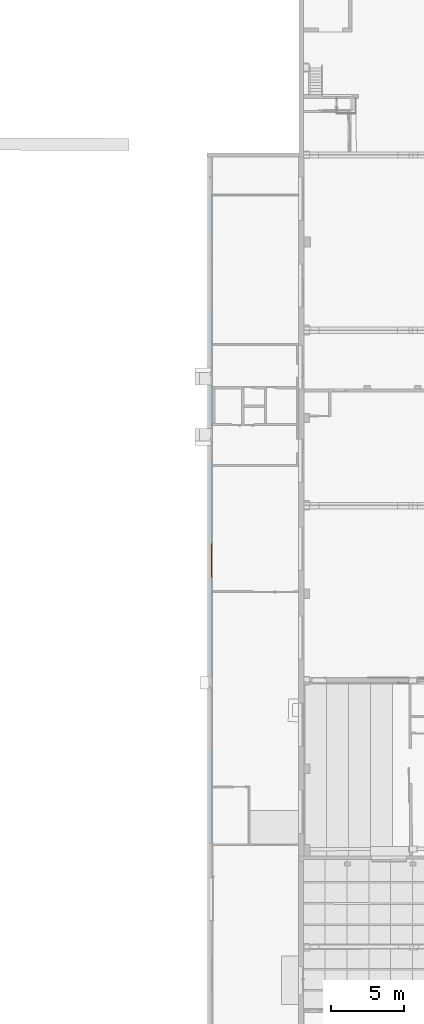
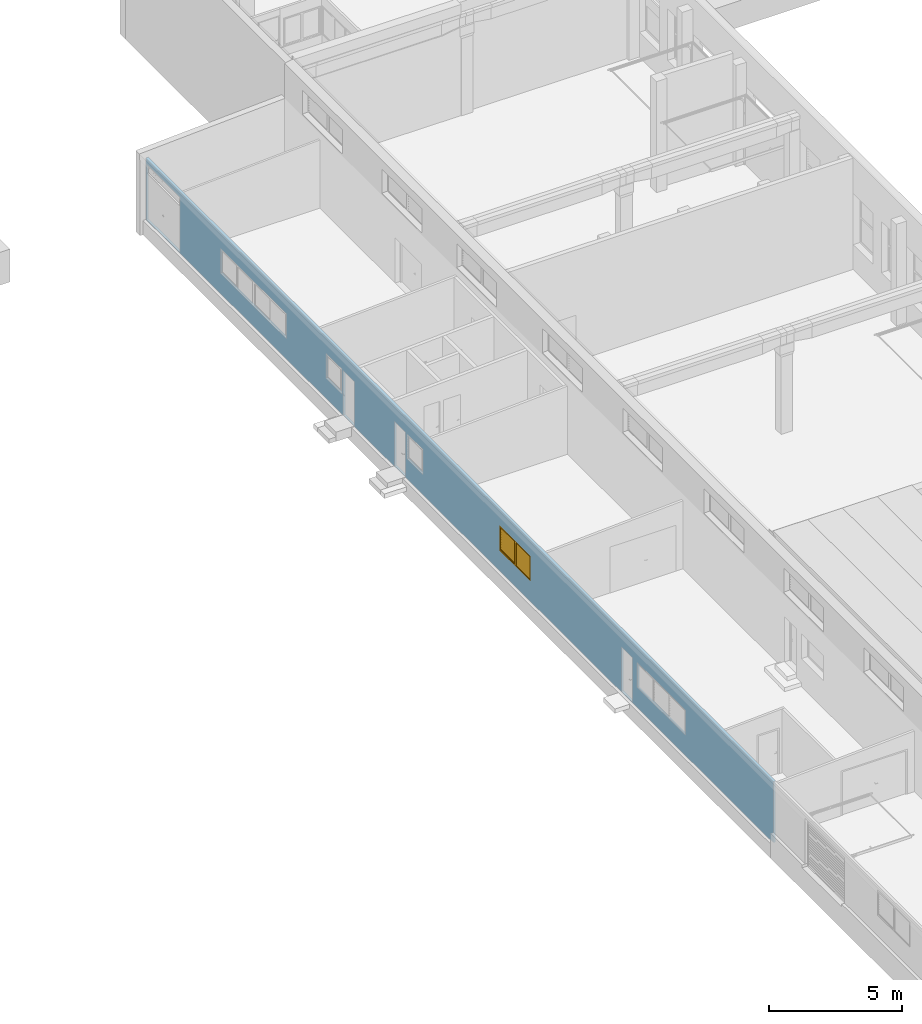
# One storey, part 104 of 301: 1 window, 9 openings, plus 1 element that does not belong to this part.
"""IFC2X3 building model written with IfcOpenShell, lengths in millimetres."""

from ifc_helpers import new_model, entity, si_unit, converted_unit, derived_unit, money_unit, direction, frame, origin_with_axes, place, context, subcontext, project, spatial, open_shell, faceted_brep, surface_model, material, type_object, element, fill, save


model = new_model("IFC2X3")

# Units and contexts
model_context = context("Model", 3, precision=0.01, world=origin_with_axes(), true_north=direction((0.0, 1.0)))
body_context = subcontext(model_context, "Body", "Model", "MODEL_VIEW")
ifc_project = project(units=[si_unit("LENGTHUNIT", "METRE", prefix="MILLI"), si_unit("AREAUNIT", "SQUARE_METRE"), si_unit("VOLUMEUNIT", "CUBIC_METRE"), converted_unit("PLANEANGLEUNIT", "DEGREE", entity("IfcPlaneAngleMeasure", 0.0174532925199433), si_unit("PLANEANGLEUNIT", "RADIAN"), dimensions=[0, 0, 0, 0, 0, 0, 0]), money_unit("EUR"), converted_unit("TIMEUNIT", "Year", entity("IfcTimeMeasure", 31557600.0), si_unit("TIMEUNIT", "SECOND"), dimensions=[0, 0, 1, 0, 0, 0, 0]), si_unit("MASSUNIT", "GRAM", prefix="KILO"), si_unit("THERMODYNAMICTEMPERATUREUNIT", "DEGREE_CELSIUS"), si_unit("LUMINOUSINTENSITYUNIT", "LUMEN"), si_unit("ENERGYUNIT", "JOULE", prefix="MEGA"), derived_unit("THERMALCONDUCTANCEUNIT", [(si_unit("POWERUNIT", "WATT"), 1), (si_unit("LENGTHUNIT", "METRE"), -1), (si_unit("THERMODYNAMICTEMPERATUREUNIT", "KELVIN"), -1)]), derived_unit("SPECIFICHEATCAPACITYUNIT", [(si_unit("ENERGYUNIT", "JOULE"), 1), (si_unit("MASSUNIT", "GRAM", prefix="KILO"), -1), (si_unit("THERMODYNAMICTEMPERATUREUNIT", "KELVIN"), -1)]), derived_unit("MASSDENSITYUNIT", [(si_unit("MASSUNIT", "GRAM", prefix="KILO"), 1), (si_unit("VOLUMEUNIT", "CUBIC_METRE"), -1)])], contexts=[model_context])

# Site, building, storey
site_placement = place(None, frame((0.0, 0.0, 8650.0), z_axis=(0.0, 0.0, 1.0), x_axis=(1.0, 0.0, 0.0)))
site = spatial("IfcSite", under=ifc_project, at=site_placement, Name="43301:001:0844", CompositionType="ELEMENT")
building_placement = place(site_placement, origin_with_axes())
building = spatial("IfcBuilding", under=site, at=building_placement, Name="Kuressaare Ametikooli tuulikute mehaanikute õppekorpus", CompositionType="ELEMENT")
storey_placement = place(building_placement, origin_with_axes())
storey = spatial("IfcBuildingStorey", under=building, at=storey_placement, Name="1.korrus", CompositionType="ELEMENT", Elevation=0.0)

# Wall, openings, window
ifc_material = material(Name="GENEERILINE - KONSTRUKTRIOON")
wall_type = type_object("IfcWallType", Name="GENEERILINE - KONSTRUKTRIOON 100", PredefinedType="NOTDEFINED")
wall_placement = place(storey_placement, frame((81892.20130850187, 110588.890590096, -350.0), z_axis=(0.0, 0.0, 1.0), x_axis=(-7.655742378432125e-06, -0.9999999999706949, 0.0)))
wall = element("IfcWall", 1, at=wall_placement, inside=storey, type_object=wall_type, material=ifc_material, Name="VS-XX", context=body_context, shape_type="Brep", body=[
    faceted_brep([(269.999999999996, 0.0, 2816.26484691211), (269.999999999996, 99.99999999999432, 2821.680593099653), (269.999999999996, 99.99999999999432, 0.0), (269.999999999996, 0.0, 0.0), (47352.6273163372, 99.9999999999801, 2809.655716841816), (47352.6273163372, 0.0, 2804.239970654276), (47352.6273163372, 99.9999999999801, 0.0), (5854.778075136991, 99.9999999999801, 924.9999999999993), (10814.77807513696, 100.0000000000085, 924.9999999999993), (10814.77807513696, 100.0000000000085, 2075.0), (5854.778075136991, 99.9999999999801, 2075.0), (13763.52836301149, 99.99999999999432, 2075.0), (13763.52836301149, 99.99999999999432, 924.9999999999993), (14963.52836301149, 100.0000000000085, 924.9999999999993), (14963.52836301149, 100.0000000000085, 2075.0), (21051.12921387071, 99.99999999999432, 2075.0), (19851.12921387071, 99.99999999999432, 2075.0), (19851.12921387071, 99.99999999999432, 924.9999999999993), (21051.12921387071, 99.99999999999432, 924.9999999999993), (29133.95455333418, 99.99999999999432, 924.9999999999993), (29133.95455333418, 99.99999999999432, 2075.0), (26783.95455333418, 99.99999999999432, 2075.0), (26783.95455333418, 99.99999999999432, 924.9999999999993), (37120.04927739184, 99.9999999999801, 924.9999999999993), (40770.04927739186, 99.9999999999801, 924.9999999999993), (40770.04927739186, 99.9999999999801, 2075.0), (37120.04927739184, 99.9999999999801, 2075.0), (297.2449189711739, 99.99999999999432, 2580.0), (297.2449189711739, 99.99999999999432, 19.99999999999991), (2817.24491897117, 99.99999999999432, 19.99999999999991), (2817.24491897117, 99.99999999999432, 2580.0), (15909.77920143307, 100.0000000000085, 2070.0), (15059.77920143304, 99.99999999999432, 2070.0), (15059.77920143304, 99.99999999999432, 19.99999999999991), (15909.77920143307, 100.0000000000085, 19.99999999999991), (19754.87837544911, 99.9999999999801, 19.99999999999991), (19754.87837544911, 99.9999999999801, 2070.0), (18904.8783754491, 99.99999999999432, 2070.0), (18904.8783754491, 99.99999999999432, 19.99999999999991), (35946.63936298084, 99.9999999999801, 19.99999999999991), (36796.63936298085, 99.9999999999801, 19.99999999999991), (36796.63936298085, 99.9999999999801, 2070.0), (35946.63936298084, 99.9999999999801, 2070.0), (47352.6273163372, 0.0, 0.0), (10814.77807513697, 0.0, 2075.0), (10814.77807513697, 0.0, 924.9999999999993), (5854.778075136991, 0.0, 924.9999999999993), (5854.778075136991, 0.0, 2075.0), (13763.5283630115, 0.0, 2075.0), (14963.5283630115, 0.0, 2075.0), (14963.5283630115, 0.0, 924.9999999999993), (13763.5283630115, 0.0, 924.9999999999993), (19851.12921387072, 0.0, 924.9999999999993), (19851.12921387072, 0.0, 2075.0), (21051.12921387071, 0.0, 2075.0), (21051.12921387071, 0.0, 924.9999999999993), (29133.95455333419, 0.0, 924.9999999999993), (26783.95455333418, 0.0, 924.9999999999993), (26783.95455333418, 0.0, 2075.0), (29133.95455333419, 0.0, 2075.0), (40770.04927739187, 0.0, 2075.0), (40770.04927739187, 0.0, 924.9999999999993), (37120.04927739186, 0.0, 924.9999999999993), (37120.04927739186, 0.0, 2075.0), (297.2449189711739, 0.0, 2580.0), (2817.244918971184, 0.0, 2580.0), (2817.244918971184, 0.0, 19.99999999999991), (297.2449189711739, 0.0, 19.99999999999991), (15059.77920143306, 0.0, 19.99999999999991), (15059.77920143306, 0.0, 2070.0), (15909.77920143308, 0.0, 2070.0), (15909.77920143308, 0.0, 19.99999999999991), (19754.87837544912, 0.0, 19.99999999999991), (18904.8783754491, 0.0, 19.99999999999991), (18904.8783754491, 0.0, 2070.0), (19754.87837544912, 0.0, 2070.0), (36796.63936298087, 0.0, 2070.0), (36796.63936298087, 0.0, 19.99999999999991), (35946.63936298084, 0.0, 19.99999999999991), (35946.63936298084, 0.0, 2070.0)], [[[0, 1, 2, 3]], [[4, 1, 0, 5]], [[1, 4, 6, 2], [7, 8, 9, 10], [11, 12, 13, 14], [15, 16, 17, 18], [19, 20, 21, 22], [23, 24, 25, 26], [27, 28, 29, 30], [31, 32, 33, 34], [35, 36, 37, 38], [39, 40, 41, 42]], [[2, 6, 43, 3]], [[5, 0, 3, 43], [44, 45, 46, 47], [48, 49, 50, 51], [52, 53, 54, 55], [56, 57, 58, 59], [60, 61, 62, 63], [64, 65, 66, 67], [68, 69, 70, 71], [72, 73, 74, 75], [76, 77, 78, 79]], [[4, 5, 43, 6]], [[45, 8, 7, 46]], [[44, 9, 8, 45]], [[47, 10, 9, 44]], [[46, 7, 10, 47]], [[48, 51, 12, 11]], [[51, 50, 13, 12]], [[50, 49, 14, 13]], [[49, 48, 11, 14]], [[15, 54, 53, 16]], [[16, 53, 52, 17]], [[17, 52, 55, 18]], [[18, 55, 54, 15]], [[20, 19, 56, 59]], [[21, 20, 59, 58]], [[22, 21, 58, 57]], [[19, 22, 57, 56]], [[61, 24, 23, 62]], [[60, 25, 24, 61]], [[63, 26, 25, 60]], [[62, 23, 26, 63]], [[64, 67, 28, 27]], [[67, 66, 29, 28]], [[66, 65, 30, 29]], [[65, 64, 27, 30]], [[31, 70, 69, 32]], [[32, 69, 68, 33]], [[33, 68, 71, 34]], [[34, 71, 70, 31]], [[36, 35, 72, 75]], [[37, 36, 75, 74]], [[38, 37, 74, 73]], [[35, 38, 73, 72]], [[77, 40, 39, 78]], [[76, 41, 40, 77]], [[79, 42, 41, 76]], [[78, 39, 42, 79]]]),
])
opening_1_placement = place(wall_placement, frame((8334.778075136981, 0.0, 924.9999999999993), z_axis=(0.0, 0.0, 1.0), x_axis=(1.0, 0.0, 0.0)))
element("IfcOpeningElement", 2, at=opening_1_placement, cuts=wall, Name="VA-XX", context=body_context, shape_type="Brep", body=[
    faceted_brep([(2479.999999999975, 101.3625195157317, 1150.0), (2479.999999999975, 101.3625195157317, 0.0), (-2480.000000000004, 101.3625195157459, 0.0), (-2480.000000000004, 101.3625195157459, 1150.0), (2479.999999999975, -1.362519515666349, 1150.0), (2479.999999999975, -1.362519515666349, 0.0), (-2479.99999999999, -1.36251951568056, 0.0), (-2479.99999999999, -1.36251951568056, 1150.0)], [[[0, 1, 2, 3]], [[4, 5, 1, 0]], [[5, 6, 2, 1]], [[6, 7, 3, 2]], [[7, 4, 0, 3]], [[6, 5, 4, 7]]]),
])
opening_2_placement = place(wall_placement, frame((14363.52836301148, 0.0, 924.9999999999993), z_axis=(0.0, 0.0, 1.0), x_axis=(1.0, 0.0, 0.0)))
element("IfcOpeningElement", 3, at=opening_2_placement, cuts=wall, Name="VA-XX", context=body_context, shape_type="Brep", body=[
    faceted_brep([(600.0000000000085, 101.362519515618, 1150.0), (600.0000000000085, 101.362519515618, 0.0), (-599.9999999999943, 101.362519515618, 0.0), (-599.9999999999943, 101.362519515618, 1150.0), (600.0000000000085, -1.362519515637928, 1150.0), (600.0000000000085, -1.362519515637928, 0.0), (-599.9999999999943, -1.362519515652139, 0.0), (-599.9999999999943, -1.362519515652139, 1150.0)], [[[0, 1, 2, 3]], [[4, 5, 1, 0]], [[5, 6, 2, 1]], [[6, 7, 3, 2]], [[7, 4, 0, 3]], [[6, 5, 4, 7]]]),
])
opening_3_placement = place(wall_placement, frame((20451.1292138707, 0.0, 924.9999999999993), z_axis=(0.0, 0.0, 1.0), x_axis=(1.0, 0.0, 0.0)))
element("IfcOpeningElement", 4, at=opening_3_placement, cuts=wall, Name="VA-XX", context=body_context, shape_type="Brep", body=[
    faceted_brep([(599.9999999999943, 101.3625195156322, 1150.0), (599.9999999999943, 101.3625195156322, 0.0), (-599.9999999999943, 101.3625195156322, 0.0), (-599.9999999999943, 101.3625195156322, 1150.0), (600.0000000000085, -1.362519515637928, 1150.0), (600.0000000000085, -1.362519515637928, 0.0), (-599.9999999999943, -1.362519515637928, 0.0), (-599.9999999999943, -1.362519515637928, 1150.0)], [[[0, 1, 2, 3]], [[4, 5, 1, 0]], [[5, 6, 2, 1]], [[6, 7, 3, 2]], [[7, 4, 0, 3]], [[6, 5, 4, 7]]]),
])
opening_4_placement = place(wall_placement, frame((27958.95455333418, 0.0, 924.9999999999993), z_axis=(0.0, 0.0, 1.0), x_axis=(1.0, 0.0, 0.0)))
opening_4 = element("IfcOpeningElement", 5, at=opening_4_placement, cuts=wall, Name="VA-XX", context=body_context, shape_type="Brep", body=[
    faceted_brep([(1174.999999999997, 101.3625195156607, 1150.0), (1174.999999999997, 101.3625195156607, 0.0), (-1175.000000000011, 101.3625195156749, 0.0), (-1175.000000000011, 101.3625195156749, 1150.0), (1174.999999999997, -1.362519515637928, 1150.0), (1174.999999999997, -1.362519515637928, 0.0), (-1174.999999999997, -1.362519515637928, 0.0), (-1174.999999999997, -1.362519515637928, 1150.0)], [[[0, 1, 2, 3]], [[4, 5, 1, 0]], [[5, 6, 2, 1]], [[6, 7, 3, 2]], [[7, 4, 0, 3]], [[6, 5, 4, 7]]]),
])
opening_5_placement = place(wall_placement, frame((38945.04927739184, 0.0, 924.9999999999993), z_axis=(0.0, 0.0, 1.0), x_axis=(1.0, 0.0, 0.0)))
element("IfcOpeningElement", 6, at=opening_5_placement, cuts=wall, Name="VA-XX", context=body_context, shape_type="Brep", body=[
    faceted_brep([(1825.000000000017, 101.3625195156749, 1150.0), (1825.000000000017, 101.3625195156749, 0.0), (-1825.000000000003, 101.3625195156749, 0.0), (-1825.000000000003, 101.3625195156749, 1150.0), (1825.000000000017, -1.362519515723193, 1150.0), (1825.000000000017, -1.362519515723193, 0.0), (-1825.000000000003, -1.362519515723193, 0.0), (-1825.000000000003, -1.362519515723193, 1150.0)], [[[0, 1, 2, 3]], [[4, 5, 1, 0]], [[5, 6, 2, 1]], [[6, 7, 3, 2]], [[7, 4, 0, 3]], [[6, 5, 4, 7]]]),
])
opening_6_placement = place(wall_placement, frame((1557.244918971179, 0.0, 19.99999999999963), z_axis=(0.0, 0.0, 1.0), x_axis=(1.0, 0.0, 0.0)))
element("IfcOpeningElement", 7, at=opening_6_placement, cuts=wall, context=body_context, shape_type="Brep", body=[
    faceted_brep([(1259.999999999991, 101.3625195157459, 2560.0), (1259.999999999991, 101.3625195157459, 0.0), (-1260.000000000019, 101.3625195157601, 0.0), (-1260.000000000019, 101.3625195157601, 2560.0), (1259.999999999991, -1.36251951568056, 2560.0), (1259.999999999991, -1.36251951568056, 0.0), (-1260.000000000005, -1.36251951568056, 0.0), (-1260.000000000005, -1.36251951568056, 2560.0)], [[[0, 1, 2, 3]], [[4, 5, 1, 0]], [[5, 6, 2, 1]], [[6, 7, 3, 2]], [[7, 4, 0, 3]], [[6, 5, 4, 7]]]),
])
opening_7_placement = place(wall_placement, frame((15484.77920143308, 0.0, 19.99999999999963), z_axis=(0.0, 0.0, 1.0), x_axis=(1.0, 0.0, 0.0)))
element("IfcOpeningElement", 8, at=opening_7_placement, cuts=wall, context=body_context, shape_type="Brep", body=[
    faceted_brep([(424.9999999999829, 101.3625195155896, 2050.0), (424.9999999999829, 101.3625195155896, 0.0), (-425.0000000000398, 101.3625195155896, 0.0), (-425.0000000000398, 101.3625195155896, 2050.0), (424.9999999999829, -1.362519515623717, 2050.0), (424.9999999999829, -1.362519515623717, 0.0), (-425.0000000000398, -1.362519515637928, 0.0), (-425.0000000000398, -1.362519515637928, 2050.0)], [[[0, 1, 2, 3]], [[4, 5, 1, 0]], [[5, 6, 2, 1]], [[6, 7, 3, 2]], [[7, 4, 0, 3]], [[6, 5, 4, 7]]]),
])
opening_8_placement = place(wall_placement, frame((19329.8783754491, 0.0, 19.99999999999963), z_axis=(0.0, 0.0, 1.0), x_axis=(1.0, 0.0, 0.0)))
element("IfcOpeningElement", 9, at=opening_8_placement, cuts=wall, context=body_context, shape_type="Brep", body=[
    faceted_brep([(425.0000000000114, 101.3625195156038, 2050.0), (425.0000000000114, 101.3625195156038, 0.0), (-425.0000000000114, 101.3625195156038, 0.0), (-425.0000000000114, 101.3625195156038, 2050.0), (425.0000000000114, -1.362519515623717, 2050.0), (425.0000000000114, -1.362519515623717, 0.0), (-424.9999999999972, -1.362519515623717, 0.0), (-424.9999999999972, -1.362519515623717, 2050.0)], [[[0, 1, 2, 3]], [[4, 5, 1, 0]], [[5, 6, 2, 1]], [[6, 7, 3, 2]], [[7, 4, 0, 3]], [[6, 5, 4, 7]]]),
])
opening_9_placement = place(wall_placement, frame((36371.63936298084, 0.0, 19.99999999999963), z_axis=(0.0, 0.0, 1.0), x_axis=(1.0, 0.0, 0.0)))
element("IfcOpeningElement", 10, at=opening_9_placement, cuts=wall, context=body_context, shape_type="Brep", body=[
    faceted_brep([(425.0000000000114, 101.362519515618, 2050.0), (425.0000000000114, 101.362519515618, 0.0), (-425.0000000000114, 101.362519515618, 0.0), (-425.0000000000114, 101.362519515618, 2050.0), (425.0000000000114, -1.362519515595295, 2050.0), (425.0000000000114, -1.362519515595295, 0.0), (-424.9999999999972, -1.362519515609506, 0.0), (-424.9999999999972, -1.362519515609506, 2050.0)], [[[0, 1, 2, 3]], [[4, 5, 1, 0]], [[5, 6, 2, 1]], [[6, 7, 3, 2]], [[7, 4, 0, 3]], [[6, 5, 4, 7]]]),
])
window_style = type_object("IfcWindowStyle", Name="Double Window 27", ConstructionType="NOTDEFINED", OperationType="DOUBLE_PANEL_VERTICAL", ParameterTakesPrecedence=False, Sizeable=False)
window_placement = place(opening_4_placement, frame((-1175.000000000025, 0.0, 0.0), z_axis=(0.0, 0.0, 1.0), x_axis=(1.0, 0.0, 0.0)))
window = element("IfcWindow", 11, at=window_placement, inside=storey, type_object=window_style, Name="VA-XX", OverallHeight=1150.0, OverallWidth=2350.0, context=body_context, shape_type="SurfaceModel", body=[
    faceted_brep([(25.00000000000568, 49.99999999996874, 1100.0), (0.0, 49.99999999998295, 1100.0), (0.0, 0.0, 1100.0), (50.00000000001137, 0.0, 1100.0), (50.00000000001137, 24.99999999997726, 1100.0), (25.00000000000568, 24.99999999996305, 1100.0), (25.00000000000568, 49.99999999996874, 50.00000000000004), (0.0, 49.99999999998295, 50.00000000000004), (0.0, 0.0, 50.00000000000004), (50.00000000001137, 0.0, 50.00000000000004), (50.00000000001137, 24.99999999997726, 50.00000000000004), (25.00000000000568, 24.99999999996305, 50.00000000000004)], [[[0, 1, 2, 3, 4, 5]], [[6, 7, 1, 0]], [[1, 7, 8, 2]], [[2, 8, 9, 3]], [[4, 3, 9, 10]], [[10, 11, 5, 4]], [[5, 11, 6, 0]], [[11, 10, 9, 8, 7, 6]]]),
    faceted_brep([(1150.000000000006, 24.99999999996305, 1100.0), (1149.999999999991, 0.0, 1100.0), (1250.0, 0.0, 1100.0), (1250.0, 49.99999999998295, 1100.0), (1175.000000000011, 49.99999999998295, 1100.0), (1175.000000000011, 24.99999999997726, 1100.0), (1150.000000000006, 24.99999999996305, 50.00000000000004), (1149.999999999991, 0.0, 50.00000000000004), (1250.0, 0.0, 50.00000000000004), (1250.0, 49.99999999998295, 50.00000000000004), (1175.000000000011, 49.99999999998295, 50.00000000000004), (1175.000000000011, 24.99999999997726, 50.00000000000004)], [[[0, 1, 2, 3, 4, 5]], [[6, 7, 1, 0]], [[8, 2, 1, 7]], [[9, 3, 2, 8]], [[4, 3, 9, 10]], [[10, 11, 5, 4]], [[5, 11, 6, 0]], [[11, 10, 9, 8, 7, 6]]]),
    faceted_brep([(1150.000000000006, 24.99999999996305, 50.00000000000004), (1149.999999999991, 0.0, 50.00000000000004), (1250.0, 0.0, 50.00000000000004), (1250.0, 49.99999999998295, 50.00000000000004), (1175.000000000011, 49.99999999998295, 50.00000000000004), (1175.000000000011, 24.99999999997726, 50.00000000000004), (50.00000000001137, 24.99999999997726, 50.00000000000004), (50.00000000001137, 0.0, 50.00000000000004), (0.0, 0.0, 50.00000000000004), (0.0, 0.0, 0.0), (2350.000000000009, 0.0, 0.0), (2350.000000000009, 0.0, 50.00000000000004), (2299.999999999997, 0.0, 50.00000000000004), (2300.000000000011, 49.99999999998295, 50.00000000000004), (25.00000000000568, 49.99999999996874, 25.00000000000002), (1175.000000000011, 49.99999999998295, 25.00000000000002), (2350.000000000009, 49.99999999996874, 50.00000000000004), (2350.000000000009, 49.99999999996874, 0.0), (0.0, 49.99999999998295, 0.0), (0.0, 49.99999999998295, 50.00000000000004), (25.00000000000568, 49.99999999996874, 50.00000000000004), (1175.000000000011, 24.99999999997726, 25.00000000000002), (25.00000000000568, 24.99999999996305, 25.00000000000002), (25.00000000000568, 24.99999999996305, 50.00000000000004)], [[[0, 1, 2, 3, 4, 5]], [[6, 7, 1, 0]], [[8, 9, 10, 11, 12, 2, 1, 7]], [[13, 3, 2, 12]], [[14, 15, 4, 3, 13, 16, 17, 18, 19, 20]], [[15, 21, 5, 4]], [[5, 21, 22, 23, 6, 0]], [[23, 20, 19, 8, 7, 6]], [[19, 18, 9, 8]], [[18, 17, 10, 9]], [[17, 16, 11, 10]], [[16, 13, 12, 11]], [[14, 22, 21, 15]], [[23, 22, 14, 20]]]),
    faceted_brep([(25.00000000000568, 49.99999999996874, 1100.0), (0.0, 49.99999999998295, 1100.0), (0.0, 49.99999999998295, 1150.0), (2350.000000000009, 49.99999999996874, 1150.0), (2350.000000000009, 49.99999999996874, 1100.0), (2300.000000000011, 49.99999999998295, 1100.0), (1250.0, 49.99999999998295, 1100.0), (1175.000000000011, 49.99999999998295, 1100.0), (1175.000000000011, 49.99999999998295, 1125.0), (25.00000000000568, 49.99999999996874, 1125.0), (25.00000000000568, 24.99999999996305, 1100.0), (50.00000000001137, 24.99999999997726, 1100.0), (50.00000000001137, 0.0, 1100.0), (0.0, 0.0, 1100.0), (0.0, 0.0, 1150.0), (2350.000000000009, 0.0, 1150.0), (2350.000000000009, 0.0, 1100.0), (2299.999999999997, 0.0, 1100.0), (1250.0, 0.0, 1100.0), (1175.000000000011, 24.99999999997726, 1100.0), (1149.999999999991, 0.0, 1100.0), (1150.000000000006, 24.99999999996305, 1100.0), (1175.000000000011, 24.99999999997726, 1125.0), (25.00000000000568, 24.99999999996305, 1125.0)], [[[0, 1, 2, 3, 4, 5, 6, 7, 8, 9]], [[10, 11, 12, 13, 1, 0]], [[2, 1, 13, 14]], [[3, 2, 14, 15]], [[4, 3, 15, 16]], [[5, 4, 16, 17]], [[6, 5, 17, 18]], [[19, 7, 6, 18, 20, 21]], [[7, 19, 22, 8]], [[8, 22, 23, 9]], [[9, 23, 10, 0]], [[21, 11, 10, 23, 22, 19]], [[21, 20, 12, 11]], [[18, 17, 16, 15, 14, 13, 12, 20]]]),
    faceted_brep([(2299.999999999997, 0.0, 50.00000000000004), (2300.000000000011, 49.99999999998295, 50.00000000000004), (2350.000000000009, 49.99999999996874, 50.00000000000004), (2350.000000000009, 0.0, 50.00000000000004), (2299.999999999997, 0.0, 1100.0), (2300.000000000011, 49.99999999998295, 1100.0), (2350.000000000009, 49.99999999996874, 1100.0), (2350.000000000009, 0.0, 1100.0)], [[[0, 1, 2, 3]], [[4, 5, 1, 0]], [[1, 5, 6, 2]], [[3, 2, 6, 7]], [[0, 3, 7, 4]], [[7, 6, 5, 4]]]),
    faceted_brep([(34.00000000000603, 74.99999999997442, 602.0), (35.33974596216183, 74.99999999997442, 606.9999999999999), (35.33974596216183, 86.99999999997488, 606.9999999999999), (34.00000000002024, 86.99999999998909, 602.0), (34.00000000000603, 74.99999999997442, 547.9999999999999), (35.33974596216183, 74.99999999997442, 542.9999999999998), (39.00000000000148, 74.99999999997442, 539.3397459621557), (44.00000000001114, 74.99999999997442, 537.9999999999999), (55.99999999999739, 74.99999999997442, 537.9999999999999), (61.00000000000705, 74.99999999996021, 539.3397459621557), (64.6602540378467, 74.99999999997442, 542.9999999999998), (66.0000000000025, 74.99999999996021, 547.9999999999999), (66.0000000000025, 74.99999999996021, 602.0), (64.6602540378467, 74.99999999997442, 606.9999999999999), (61.00000000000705, 74.99999999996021, 610.6602540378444), (55.99999999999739, 74.99999999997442, 612.0), (44.00000000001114, 74.99999999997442, 612.0), (39.00000000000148, 74.99999999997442, 610.6602540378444), (39.00000000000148, 86.99999999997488, 610.6602540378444), (44.00000000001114, 86.99999999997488, 612.0), (55.99999999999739, 86.99999999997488, 612.0), (61.00000000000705, 86.99999999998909, 610.6602540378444), (64.6602540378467, 86.99999999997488, 606.9999999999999), (66.00000000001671, 86.99999999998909, 602.0), (66.00000000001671, 86.99999999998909, 547.9999999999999), (64.6602540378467, 86.99999999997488, 542.9999999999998), (61.00000000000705, 86.99999999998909, 539.3397459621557), (55.99999999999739, 86.99999999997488, 537.9999999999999), (44.00000000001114, 86.99999999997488, 537.9999999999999), (39.00000000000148, 86.99999999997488, 539.3397459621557), (35.33974596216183, 86.99999999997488, 542.9999999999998), (34.00000000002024, 86.99999999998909, 547.9999999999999)], [[[0, 1, 2, 3]], [[0, 4, 5, 6, 7, 8, 9, 10, 11, 12, 13, 14, 15, 16, 17, 1]], [[1, 17, 18, 2]], [[3, 2, 18, 19, 20, 21, 22, 23, 24, 25, 26, 27, 28, 29, 30, 31]], [[4, 0, 3, 31]], [[5, 4, 31, 30]], [[6, 5, 30, 29]], [[7, 6, 29, 28]], [[8, 7, 28, 27]], [[9, 8, 27, 26]], [[10, 9, 26, 25]], [[11, 10, 25, 24]], [[12, 11, 24, 23]], [[13, 12, 23, 22]], [[14, 13, 22, 21]], [[15, 14, 21, 20]], [[16, 15, 20, 19]], [[17, 16, 19, 18]]]),
    faceted_brep([(50.00000000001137, 86.99999999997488, 588.4999999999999), (56.75000000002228, 86.99999999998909, 586.69134295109), (56.75000000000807, 110.9999999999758, 586.69134295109), (50.00000000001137, 110.9999999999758, 588.4999999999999), (43.25000000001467, 86.99999999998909, 586.69134295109), (38.30865704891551, 86.99999999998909, 581.7500000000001), (36.50000000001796, 86.99999999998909, 574.9999999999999), (38.30865704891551, 86.99999999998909, 568.25), (43.25000000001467, 86.99999999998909, 563.3086570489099), (50.00000000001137, 86.99999999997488, 561.5), (56.75000000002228, 86.99999999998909, 563.3086570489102), (61.69134295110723, 86.99999999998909, 568.25), (63.50000000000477, 86.99999999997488, 574.9999999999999), (61.69134295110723, 86.99999999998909, 581.7500000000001), (61.69134295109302, 110.9999999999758, 581.7500000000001), (63.50000000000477, 110.9999999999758, 574.9999999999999), (61.69134295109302, 110.9999999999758, 568.25), (56.75000000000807, 110.9999999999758, 563.3086570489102), (50.00000000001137, 110.9999999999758, 561.5), (43.25000000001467, 110.9999999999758, 563.3086570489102), (38.30865704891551, 110.9999999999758, 568.25), (36.50000000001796, 110.9999999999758, 574.9999999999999), (38.30865704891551, 110.9999999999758, 581.7500000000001), (43.25000000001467, 110.9999999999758, 586.69134295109)], [[[0, 1, 2, 3]], [[0, 4, 5, 6, 7, 8, 9, 10, 11, 12, 13, 1]], [[1, 13, 14, 2]], [[3, 2, 14, 15, 16, 17, 18, 19, 20, 21, 22, 23]], [[4, 0, 3, 23]], [[5, 4, 23, 22]], [[6, 5, 22, 21]], [[7, 6, 21, 20]], [[8, 7, 20, 19]], [[9, 8, 19, 18]], [[10, 9, 18, 17]], [[11, 10, 17, 16]], [[12, 11, 16, 15]], [[13, 12, 15, 14]]]),
    faceted_brep([(38.49999999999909, 110.9999999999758, 468.0000000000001), (50.00000000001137, 110.9999999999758, 464.9999999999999), (61.50000000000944, 110.9999999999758, 468.0000000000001), (63.50000000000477, 110.9999999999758, 471.0), (63.50000000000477, 110.9999999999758, 574.9999999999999), (61.69134295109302, 110.9999999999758, 581.7500000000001), (56.75000000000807, 110.9999999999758, 586.69134295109), (50.00000000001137, 110.9999999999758, 588.4999999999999), (43.25000000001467, 110.9999999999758, 586.69134295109), (38.30865704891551, 110.9999999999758, 581.7500000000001), (36.50000000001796, 110.9999999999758, 574.9999999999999), (36.50000000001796, 110.9999999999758, 471.0), (38.49999993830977, 118.9999999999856, 468.0000001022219), (49.99999996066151, 118.9999999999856, 464.9999996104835), (61.49999998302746, 118.9999999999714, 468.0000001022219), (63.50000031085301, 118.9999999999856, 470.9999996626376), (63.50000031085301, 118.9999999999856, 574.9999999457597), (61.69134299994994, 118.9999999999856, 581.749999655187), (56.74999967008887, 118.9999999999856, 586.6913429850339), (49.99999996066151, 118.9999999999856, 588.500000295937), (43.25000025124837, 118.9999999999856, 586.6913429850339), (38.30865692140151, 118.9999999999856, 581.749999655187), (36.49999961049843, 118.9999999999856, 574.9999999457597), (36.49999961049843, 118.9999999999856, 470.9999996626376), (40.3625374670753, 121.9999995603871, 470.6145196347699), (49.99999996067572, 121.9999995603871, 468.1003985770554), (59.63746245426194, 121.9999995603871, 470.6145196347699), (60.50000075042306, 121.9999995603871, 471.9083266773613), (60.50000075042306, 121.9999995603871, 574.6050424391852), (59.00161703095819, 121.9999995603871, 580.1970855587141), (55.19708557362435, 121.9999995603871, 584.001617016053), (49.99999996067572, 121.9999995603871, 585.3941721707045), (44.80291434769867, 121.9999995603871, 584.001617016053), (40.99838289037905, 121.9999995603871, 580.1970855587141), (39.49999917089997, 121.9999995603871, 574.6050424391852), (39.49999917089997, 121.9999995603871, 471.9083266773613)], [[[0, 1, 2, 3, 4, 5, 6, 7, 8, 9, 10, 11]], [[1, 0, 12, 13]], [[2, 1, 13, 14]], [[3, 2, 14, 15]], [[4, 3, 15, 16]], [[5, 4, 16, 17]], [[6, 5, 17, 18]], [[7, 6, 18, 19]], [[8, 7, 19, 20]], [[9, 8, 20, 21]], [[10, 9, 21, 22]], [[11, 10, 22, 23]], [[0, 11, 23, 12]], [[13, 12, 24, 25]], [[14, 13, 25, 26]], [[15, 14, 26, 27]], [[16, 15, 27, 28]], [[17, 16, 28, 29]], [[18, 17, 29, 30]], [[19, 18, 30, 31]], [[20, 19, 31, 32]], [[21, 20, 32, 33]], [[22, 21, 33, 34]], [[23, 22, 34, 35]], [[12, 23, 35, 24]], [[26, 25, 24, 35, 34, 33, 32, 31, 30, 29, 28, 27]]]),
    faceted_brep([(75.00000000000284, 24.99999999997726, 1075.0), (75.00000000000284, 74.99999999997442, 1075.0), (25.00000000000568, 74.99999999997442, 1075.0), (25.00000000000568, 24.99999999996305, 1075.0), (75.00000000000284, 24.99999999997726, 75.00000000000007), (75.00000000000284, 74.99999999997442, 75.00000000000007), (25.00000000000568, 74.99999999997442, 75.00000000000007), (25.00000000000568, 24.99999999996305, 75.00000000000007)], [[[0, 1, 2, 3]], [[4, 5, 1, 0]], [[1, 5, 6, 2]], [[3, 2, 6, 7]], [[0, 3, 7, 4]], [[7, 6, 5, 4]]]),
    faceted_brep([(1125.0, 24.99999999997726, 75.00000000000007), (1125.0, 74.99999999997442, 75.00000000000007), (1174.999999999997, 74.99999999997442, 75.00000000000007), (1175.000000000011, 24.99999999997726, 75.00000000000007), (1125.0, 24.99999999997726, 1075.0), (1125.0, 74.99999999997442, 1075.0), (1174.999999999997, 74.99999999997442, 1075.0), (1175.000000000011, 24.99999999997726, 1075.0)], [[[0, 1, 2, 3]], [[4, 5, 1, 0]], [[1, 5, 6, 2]], [[3, 2, 6, 7]], [[0, 3, 7, 4]], [[7, 6, 5, 4]]]),
    faceted_brep([(1175.000000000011, 24.99999999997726, 25.00000000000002), (1174.999999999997, 74.99999999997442, 25.00000000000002), (1174.999999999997, 74.99999999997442, 75.00000000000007), (1175.000000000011, 24.99999999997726, 75.00000000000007), (25.00000000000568, 24.99999999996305, 25.00000000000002), (25.00000000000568, 74.99999999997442, 25.00000000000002), (25.00000000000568, 74.99999999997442, 75.00000000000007), (75.00000000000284, 74.99999999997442, 75.00000000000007), (1125.0, 74.99999999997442, 75.00000000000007), (1125.0, 24.99999999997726, 75.00000000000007), (75.00000000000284, 24.99999999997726, 75.00000000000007), (25.00000000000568, 24.99999999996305, 75.00000000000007)], [[[0, 1, 2, 3]], [[4, 5, 1, 0]], [[1, 5, 6, 7, 8, 2]], [[3, 2, 8, 9]], [[0, 3, 9, 10, 11, 4]], [[11, 6, 5, 4]], [[10, 7, 6, 11]], [[9, 8, 7, 10]]]),
    faceted_brep([(25.00000000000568, 24.99999999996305, 1125.0), (25.00000000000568, 74.99999999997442, 1125.0), (25.00000000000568, 74.99999999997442, 1075.0), (25.00000000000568, 24.99999999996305, 1075.0), (1175.000000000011, 24.99999999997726, 1125.0), (1174.999999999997, 74.99999999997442, 1125.0), (1174.999999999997, 74.99999999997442, 1075.0), (1125.0, 74.99999999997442, 1075.0), (75.00000000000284, 74.99999999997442, 1075.0), (75.00000000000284, 24.99999999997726, 1075.0), (1125.0, 24.99999999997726, 1075.0), (1175.000000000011, 24.99999999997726, 1075.0)], [[[0, 1, 2, 3]], [[4, 5, 1, 0]], [[1, 5, 6, 7, 8, 2]], [[3, 2, 8, 9]], [[0, 3, 9, 10, 11, 4]], [[11, 6, 5, 4]], [[10, 7, 6, 11]], [[9, 8, 7, 10]]]),
    surface_model("IfcShellBasedSurfaceModel", [(75.00000000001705, 39.99999999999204, 75.00000000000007), (1125.0, 39.99999999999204, 75.00000000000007), (1125.0, 39.99999999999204, 1075.0), (75.00000000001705, 39.99999999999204, 1075.0)], [open_shell([[[0, 1, 2, 3]]])]),
    surface_model("IfcShellBasedSurfaceModel", [(75.00000000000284, 59.99999999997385, 75.00000000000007), (75.00000000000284, 59.99999999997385, 1075.0), (1125.000000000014, 59.99999999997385, 1075.0), (1125.000000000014, 59.99999999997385, 75.00000000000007)], [open_shell([[[0, 1, 2, 3]]])]),
    surface_model("IfcShellBasedSurfaceModel", [(1250.0, 14.99999999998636, 50.00000000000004), (2300.000000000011, 14.99999999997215, 50.00000000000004), (2300.000000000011, 14.99999999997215, 1100.0), (1250.0, 14.99999999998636, 1100.0)], [open_shell([[[0, 1, 2, 3]]])]),
    surface_model("IfcShellBasedSurfaceModel", [(1250.0, 34.99999999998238, 50.00000000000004), (1250.0, 34.99999999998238, 1100.0), (2299.999999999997, 34.99999999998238, 1100.0), (2299.999999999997, 34.99999999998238, 50.00000000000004)], [open_shell([[[0, 1, 2, 3]]])]),
])
fill(opening_4, window)

save(model, "model.ifc")
